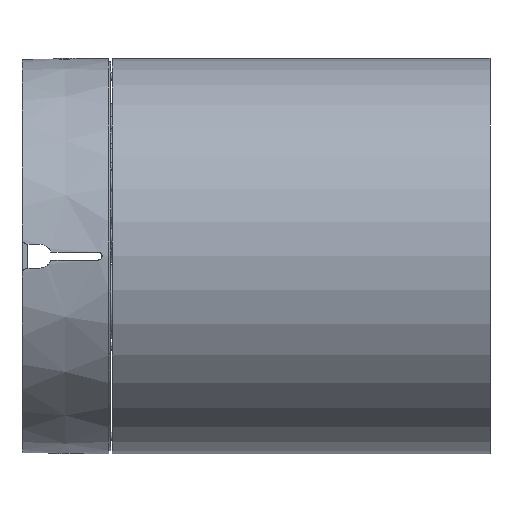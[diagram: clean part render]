
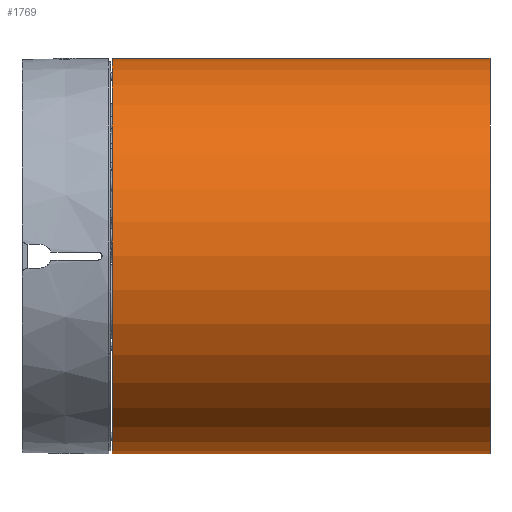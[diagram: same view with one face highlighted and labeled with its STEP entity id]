
A CAD part, left-side view. The second image highlights one B-rep face of the part: STEP entity #1769.
In plain terms, the highlighted cylindrical face has radius 100 mm (diameter 200 mm), a partial arc.
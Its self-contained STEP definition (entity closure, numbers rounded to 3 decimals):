
#2=CARTESIAN_POINT('',(0.,-27.25,0.));
#3=DIRECTION('',(0.,1.,0.));
#4=DIRECTION('',(0.,0.,1.));
#5=AXIS2_PLACEMENT_3D('',#2,#3,#4);
#7=DIRECTION('',(0.,-1.,0.));
#8=VECTOR('',#7,191.);
#9=CARTESIAN_POINT('',(0.,163.75,100.));
#10=LINE('',#9,#8);
#11=CARTESIAN_POINT('',(0.,163.75,0.));
#12=DIRECTION('',(0.,1.,0.));
#13=DIRECTION('',(0.,0.,1.));
#14=AXIS2_PLACEMENT_3D('',#11,#12,#13);
#31=DIRECTION('',(0.,-1.,0.));
#32=VECTOR('',#31,191.);
#33=CARTESIAN_POINT('',(0.,163.75,-100.));
#34=LINE('',#33,#32);
#1646=CARTESIAN_POINT('',(0.,163.75,100.));
#1647=CARTESIAN_POINT('',(0.,163.75,-100.));
#1648=VERTEX_POINT('',#1646);
#1649=VERTEX_POINT('',#1647);
#1746=CARTESIAN_POINT('',(0.,-27.25,100.));
#1747=CARTESIAN_POINT('',(0.,-27.25,-100.));
#1748=VERTEX_POINT('',#1746);
#1749=VERTEX_POINT('',#1747);
#1754=CARTESIAN_POINT('',(0.,0.,0.));
#1755=DIRECTION('',(0.,1.,0.));
#1756=DIRECTION('',(0.,0.,1.));
#1757=AXIS2_PLACEMENT_3D('',#1754,#1755,#1756);
#1758=CYLINDRICAL_SURFACE('',#1757,100.);
#1760=ORIENTED_EDGE('',*,*,#1759,.F.);
#1762=ORIENTED_EDGE('',*,*,#1761,.F.);
#1764=ORIENTED_EDGE('',*,*,#1763,.T.);
#1766=ORIENTED_EDGE('',*,*,#1765,.T.);
#1767=EDGE_LOOP('',(#1760,#1762,#1764,#1766));
#1768=FACE_OUTER_BOUND('',#1767,.F.);
#1769=ADVANCED_FACE('',(#1768),#1758,.T.);
#6=CIRCLE('',#5,100.);
#15=CIRCLE('',#14,100.);
#1759=EDGE_CURVE('',#1748,#1749,#6,.T.);
#1761=EDGE_CURVE('',#1648,#1748,#10,.T.);
#1763=EDGE_CURVE('',#1648,#1649,#15,.T.);
#1765=EDGE_CURVE('',#1649,#1749,#34,.T.);
